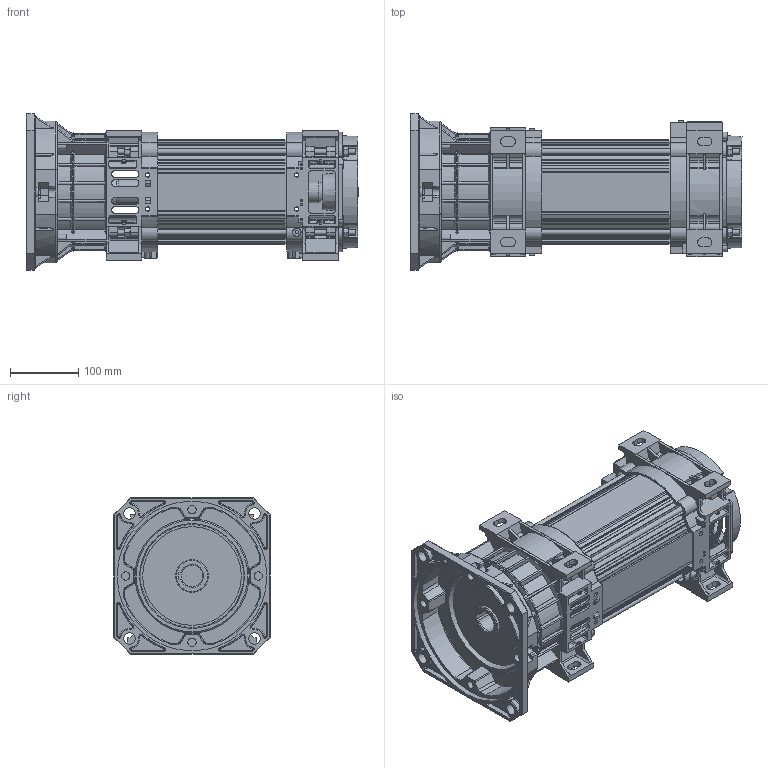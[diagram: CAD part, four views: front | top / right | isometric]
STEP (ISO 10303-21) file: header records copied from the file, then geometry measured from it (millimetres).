
FILE_DESCRIPTION(/* description */ ('Motore Tipo V46 FL220 F32-H210 SI Volano NO Piedi'),/* implementation_level */ '2;1');
FILE_NAME(/* name */ 'Y:\ServerTecnico\Mockup Motori x Sito Elmo\Mockup Tipo V46 Size 1 FL220 F32-H210 SI Volano.stp',/* time_stamp */ '2016-10-06T08:57:51+02:00',/* author */ ('aparmini'),/* organization */ (''),/* preprocessor_version */ 'ST-DEVELOPER v16.5',/* originating_system */ 'Autodesk Inventor 2017',/* authorisation */ '');
FILE_SCHEMA (('AUTOMOTIVE_DESIGN { 1 0 10303 214 3 1 1 }'));
Products named in the file (10): Mockup Tipo V46 Size 1 FL220 F32-H210 SI Volano; Mockup Statore Size 1 - F32-H210 SI Volano; TGS10; FA1VD220NA-01-07-2015; CA1VS-DSEMI 220 01-07-2015; SEMI FA1VD220A; Mockup CP1XD040N; TI08ML350; UNI 5587 - M8; DIN 125-2 - B 8,4
Assembly tree (22 placements, depth 3):
  Mockup Tipo V46 Size 1 FL220 F32-H210 SI Volano
    Mockup Statore Size 1 - F32-H210 SI Volano
    TGS10
    FA1VD220NA-01-07-2015
      CA1VS-DSEMI 220 01-07-2015
      SEMI FA1VD220A
    Mockup CP1XD040N
    TI08ML350  x4
    UNI 5587 - M8  x8
    DIN 125-2 - B 8,4  x4
Bounding box: 488 x 230 x 230 mm (x, y, z)
Volume: 7067979.9 mm3; surface area: 1025619 mm2
Topology: 21 solids, 21 shells, 2868 faces, 7671 edges, 4853 vertices
Faces by surface type: plane 1132, cylinder 1064, cone 329, bspline 223, torus 104, sphere 16
Full cylindrical faces by diameter (mm): 3.2 x5, 4 x8, 4.917 x2, 5 x4, 6.2 x8, 6.647 x8, 8 x4, 8.4 x4, 10 x8, 12 x8, 16 x4, 17 x5, 21 x1, 32 x2, 40 x1, 48 x1, 50 x1, 82 x2, 145 x1, 220 x1
Entity records: 92654 total; most frequent: CARTESIAN_POINT 24779, ORIENTED_EDGE 14302, DIRECTION 14278, EDGE_CURVE 7139, AXIS2_PLACEMENT_3D 5282, VERTEX_POINT 4604, LINE 3714, VECTOR 3714
